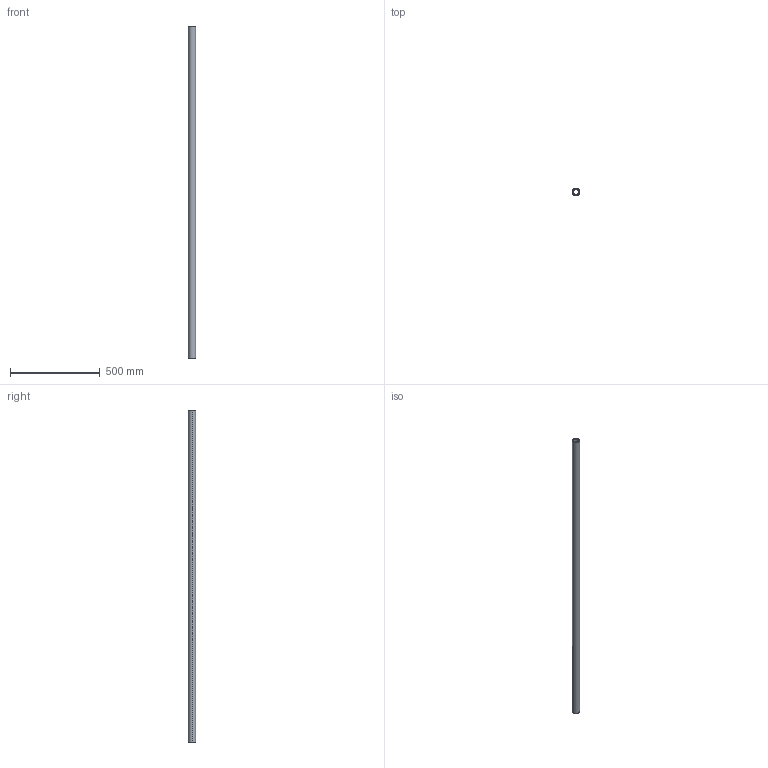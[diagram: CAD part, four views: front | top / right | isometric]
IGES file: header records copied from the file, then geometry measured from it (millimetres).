
Start section: SolidWorks IGES file using analytic representation for surfaces
Global section: file name: C:\Users\IanO\Desktop\L1771_v2\L1771.40_v2\L1771.40_v2_20230705_IGES\L1771.40-1850.igs; native system: SolidWorks 2019; preprocessor: SolidWorks 2019; author: IanO; date: 230705.160855; units: millimetre
Bounding box: 40 x 40 x 1850 mm (x, y, z)
Surface area: 396494.1 mm2 (no closed solid volume)
Topology: 0 solids, 0 shells, 6 faces, 272 edges, 272 vertices
Faces by surface type: revolution 4, bspline 2
